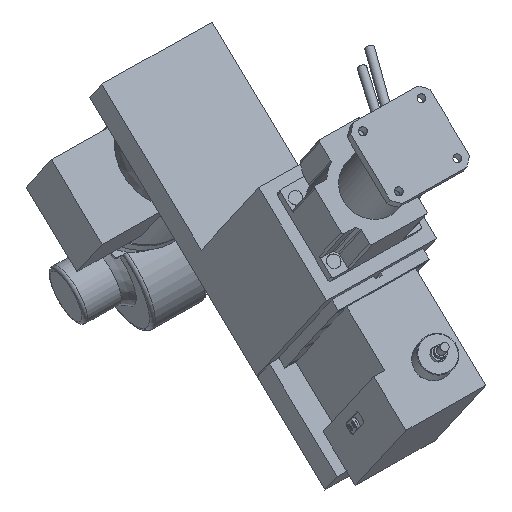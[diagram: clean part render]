
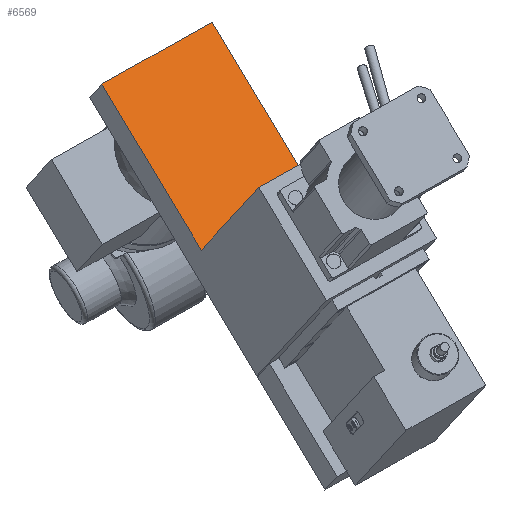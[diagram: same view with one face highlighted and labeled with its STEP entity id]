
A CAD part, top view. The second image highlights one B-rep face of the part: STEP entity #6569.
In plain terms, the highlighted planar face has unit normal (0.205, 0.22, 0.954).
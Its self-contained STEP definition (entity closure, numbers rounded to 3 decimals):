
#6317=CARTESIAN_POINT('',(-0.376,-334.216,-537.249));
#6318=VERTEX_POINT('',#6317);
#6325=CARTESIAN_POINT('',(-120.658,-133.387,-557.86));
#6326=VERTEX_POINT('',#6325);
#6327=CARTESIAN_POINT('',(-0.376,-334.216,-537.249));
#6328=DIRECTION('',(-0.512,0.855,-0.088));
#6329=VECTOR('',#6328,235.);
#6330=LINE('',#6327,#6329);
#6331=EDGE_CURVE('',#6318,#6326,#6330,.T.);
#6393=CARTESIAN_POINT('',(12.839,-58.156,-603.891));
#6394=VERTEX_POINT('',#6393);
#6401=CARTESIAN_POINT('',(133.122,-258.985,-583.28));
#6402=VERTEX_POINT('',#6401);
#6403=CARTESIAN_POINT('',(12.839,-58.156,-603.891));
#6404=DIRECTION('',(0.512,-0.855,0.088));
#6405=VECTOR('',#6404,235.);
#6406=LINE('',#6403,#6405);
#6407=EDGE_CURVE('',#6394,#6402,#6406,.T.);
#6548=CARTESIAN_POINT('',(47.179,-264.554,-563.554));
#6549=DIRECTION('',(0.205,0.22,0.954));
#6550=DIRECTION('',(-0.834,-0.47,0.288));
#6551=AXIS2_PLACEMENT_3D('',#6548,#6549,#6550);
#6552=PLANE('',#6551);
#6553=CARTESIAN_POINT('',(133.122,-258.985,-583.28));
#6554=DIRECTION('',(-0.834,-0.47,0.288));
#6555=VECTOR('',#6554,160.);
#6556=LINE('',#6553,#6555);
#6557=EDGE_CURVE('',#6402,#6318,#6556,.T.);
#6558=ORIENTED_EDGE('',*,*,#6557,.F.);
#6559=ORIENTED_EDGE('',*,*,#6407,.F.);
#6560=CARTESIAN_POINT('',(-120.658,-133.387,-557.86));
#6561=DIRECTION('',(0.834,0.47,-0.288));
#6562=VECTOR('',#6561,160.);
#6563=LINE('',#6560,#6562);
#6564=EDGE_CURVE('',#6326,#6394,#6563,.T.);
#6565=ORIENTED_EDGE('',*,*,#6564,.F.);
#6566=ORIENTED_EDGE('',*,*,#6331,.F.);
#6567=EDGE_LOOP('',(#6558,#6559,#6565,#6566));
#6568=FACE_OUTER_BOUND('',#6567,.T.);
#6569=ADVANCED_FACE('',(#6568),#6552,.T.);
